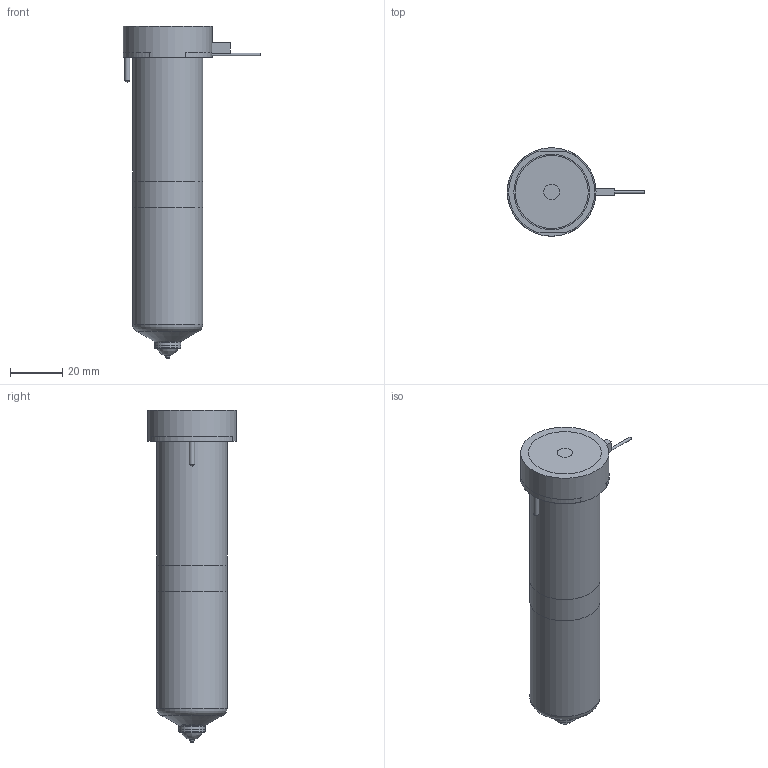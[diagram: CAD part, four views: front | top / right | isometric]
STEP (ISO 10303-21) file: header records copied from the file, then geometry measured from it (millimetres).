
FILE_DESCRIPTION(/* description */ (''),/* implementation_level */ '2;1');
FILE_NAME(/* name */ 'BXOV13115_250C_b',/* time_stamp */ '2007-01-18T08:47:41+13:00',/* author */ (''),/* organization */ (''),/* preprocessor_version */ 'ST-DEVELOPER v9',/* originating_system */ 'UGS - NX 4.0',/* authorisation */ '');
FILE_SCHEMA (('CONFIG_CONTROL_DESIGN'));
Length unit declared in the file: millimetre
Products named in the file (1): BXOV13115_250C_b
Bounding box: 52.65 x 34 x 127.38 mm (x, y, z)
Volume: 129115.9 mm3; surface area: 25980.6 mm2
Topology: 6 solids, 6 shells, 85 faces, 164 edges, 104 vertices
Faces by surface type: plane 36, cylinder 25, cone 13, torus 8, bspline 3
Full cylindrical faces by diameter (mm): 1 x3, 2 x3, 6 x1, 6.4 x1, 6.5 x1, 9.61 x1, 10.01 x2, 12.6 x1, 22.2 x1, 27 x2, 34 x1
Entity records: 2092 total; most frequent: CARTESIAN_POINT 447, DIRECTION 348, ORIENTED_EDGE 234, AXIS2_PLACEMENT_3D 156, EDGE_LOOP 136, EDGE_CURVE 117, VERTEX_POINT 96, ADVANCED_FACE 85
